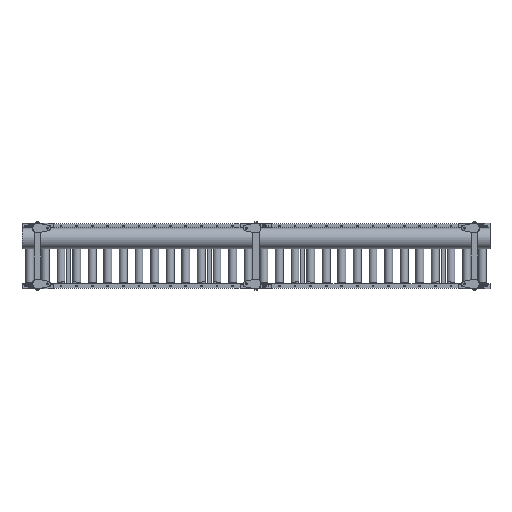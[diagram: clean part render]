
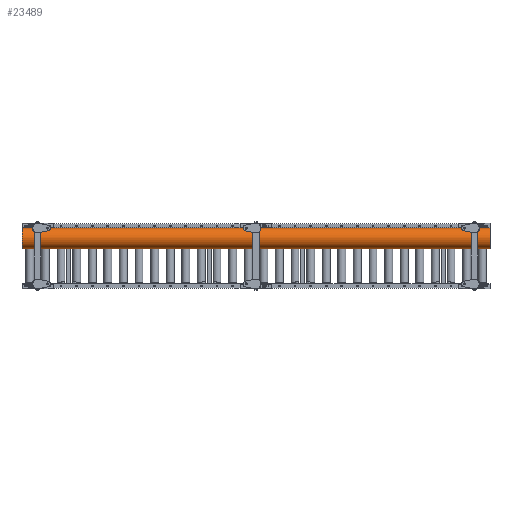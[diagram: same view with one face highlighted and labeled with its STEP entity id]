
A CAD part, front view. The second image highlights one B-rep face of the part: STEP entity #23489.
In plain terms, the highlighted cylindrical face has radius 66.89 mm (diameter 133.78 mm), a partial arc.
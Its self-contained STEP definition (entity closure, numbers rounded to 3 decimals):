
#83 = AXIS2_PLACEMENT_3D ( 'NONE', #15523, #1667, #82026 ) ;
#1527 = EDGE_CURVE ( 'NONE', #138619, #8618, #13774, .T. ) ;
#1667 = DIRECTION ( 'NONE',  ( -1., 0., 0. ) ) ;
#6355 = ORIENTED_EDGE ( 'NONE', *, *, #142188, .F. ) ;
#7652 = EDGE_CURVE ( 'NONE', #115973, #31115, #70458, .T. ) ;
#8618 = VERTEX_POINT ( 'NONE', #134959 ) ;
#13774 = LINE ( 'NONE', #47812, #118881 ) ;
#15523 = CARTESIAN_POINT ( 'NONE',  ( -3000., -150., 112.61 ) ) ;
#18044 = CARTESIAN_POINT ( 'NONE',  ( -3177.652, -150., 112.61 ) ) ;
#23489 = ADVANCED_FACE ( 'NONE', ( #32733 ), #43431, .T. ) ;
#31115 = VERTEX_POINT ( 'NONE', #176029 ) ;
#32733 = FACE_OUTER_BOUND ( 'NONE', #115438, .T. ) ;
#38460 = AXIS2_PLACEMENT_3D ( 'NONE', #18044, #85082, #141020 ) ;
#43431 = CYLINDRICAL_SURFACE ( 'NONE', #38460, 66.89 ) ;
#46659 = DIRECTION ( 'NONE',  ( 1., 0., 0. ) ) ;
#47812 = CARTESIAN_POINT ( 'NONE',  ( -3177.652, -150., 179.5 ) ) ;
#70458 = LINE ( 'NONE', #137788, #89380 ) ;
#82026 = DIRECTION ( 'NONE',  ( 0., 0., -1. ) ) ;
#83317 = CARTESIAN_POINT ( 'NONE',  ( -3000., -150., 179.5 ) ) ;
#85082 = DIRECTION ( 'NONE',  ( 1., 0., 0. ) ) ;
#89380 = VECTOR ( 'NONE', #152155, 1000. ) ;
#96306 = DIRECTION ( 'NONE',  ( 0., 0., 1. ) ) ;
#105678 = AXIS2_PLACEMENT_3D ( 'NONE', #151609, #109513, #96306 ) ;
#106244 = ORIENTED_EDGE ( 'NONE', *, *, #7652, .T. ) ;
#109513 = DIRECTION ( 'NONE',  ( 1., 0., 0. ) ) ;
#113002 = ORIENTED_EDGE ( 'NONE', *, *, #1527, .F. ) ;
#115438 = EDGE_LOOP ( 'NONE', ( #134602, #106244, #6355, #113002 ) ) ;
#115973 = VERTEX_POINT ( 'NONE', #116617 ) ;
#116617 = CARTESIAN_POINT ( 'NONE',  ( -3000., -150., 45.72 ) ) ;
#117206 = CIRCLE ( 'NONE', #105678, 66.89 ) ;
#118881 = VECTOR ( 'NONE', #46659, 1000. ) ;
#128872 = EDGE_CURVE ( 'NONE', #115973, #138619, #138971, .T. ) ;
#134602 = ORIENTED_EDGE ( 'NONE', *, *, #128872, .F. ) ;
#134959 = CARTESIAN_POINT ( 'NONE',  ( 0., -150., 179.5 ) ) ;
#137788 = CARTESIAN_POINT ( 'NONE',  ( -3177.652, -150., 45.72 ) ) ;
#138619 = VERTEX_POINT ( 'NONE', #83317 ) ;
#138971 = CIRCLE ( 'NONE', #83, 66.89 ) ;
#141020 = DIRECTION ( 'NONE',  ( 0., 0., -1. ) ) ;
#142188 = EDGE_CURVE ( 'NONE', #8618, #31115, #117206, .T. ) ;
#151609 = CARTESIAN_POINT ( 'NONE',  ( 0., -150., 112.61 ) ) ;
#152155 = DIRECTION ( 'NONE',  ( 1., 0., 0. ) ) ;
#176029 = CARTESIAN_POINT ( 'NONE',  ( 0., -150., 45.72 ) ) ;
